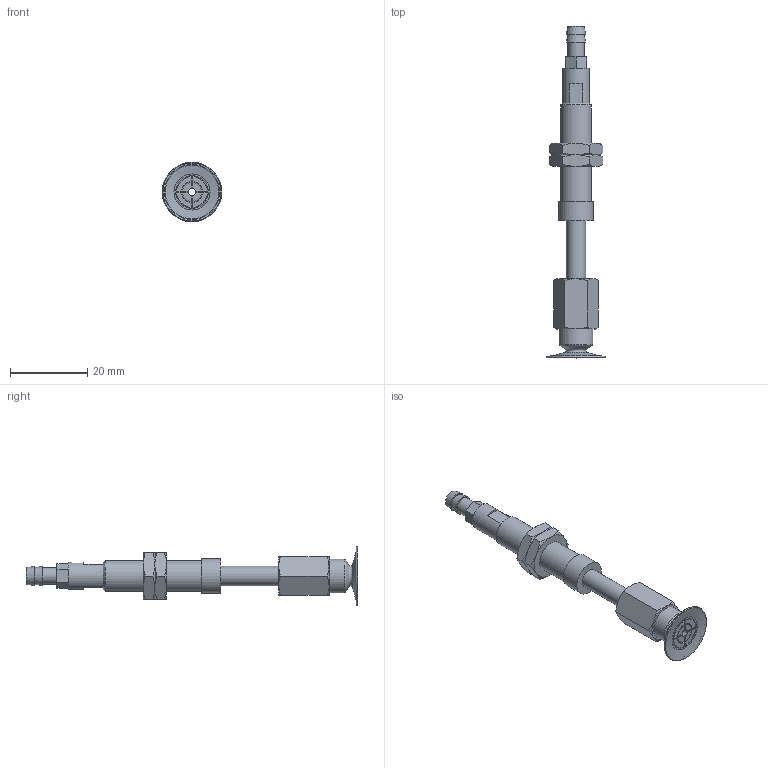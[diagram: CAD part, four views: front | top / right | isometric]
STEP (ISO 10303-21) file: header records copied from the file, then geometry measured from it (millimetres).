
FILE_DESCRIPTION(('STEP AP203'),'1');
FILE_NAME('-T.stp','2025-08-26T08:53:50',(' '),(' '),'Spatial InterOp 3D',' ',' ');
FILE_SCHEMA(('CONFIG_CONTROL_DESIGN'));
Length unit declared in the file: millimetre
Products named in the file (7): BNABPATS-15B-15-※-T; ADAPTER; NAPATS-10A-15--M; NAPATS-10A-15--F; Nut-10A-S; BPAG-15B-※_3D; T
Assembly tree (7 placements, depth 2):
  BNABPATS-15B-15-※-T
    ADAPTER
    NAPATS-10A-15--M
    NAPATS-10A-15--F
    Nut-10A-S  x2
    BPAG-15B-※_3D
    T
Bounding box: 15.4 x 86 x 15.4 mm (x, y, z)
Volume: 4132.6 mm3; surface area: 5309.3 mm2
Topology: 7 solids, 7 shells, 173 faces, 380 edges, 232 vertices
Faces by surface type: plane 73, cone 58, cylinder 32, torus 10
Full cylindrical faces by diameter (mm): 2 x3, 3 x1, 4 x2, 4.134 x1, 4.3 x1, 5 x3, 6 x2, 7 x1, 7.188 x2, 8 x1, 8.5 x1, 8.7 x1, 9 x1
Entity records: 4410 total; most frequent: CARTESIAN_POINT 997, DIRECTION 648, ORIENTED_EDGE 558, EDGE_CURVE 279, AXIS2_PLACEMENT_3D 274, EDGE_LOOP 214, VERTEX_POINT 193, FACE_OUTER_BOUND 179
